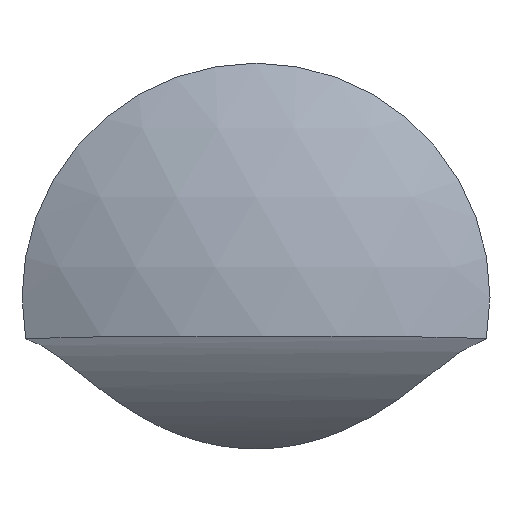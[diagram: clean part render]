
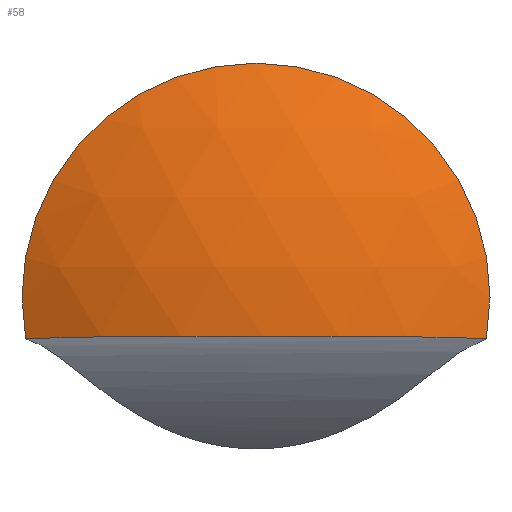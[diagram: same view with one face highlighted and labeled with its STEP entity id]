
A CAD part, front view. The second image highlights one B-rep face of the part: STEP entity #58.
In plain terms, the highlighted spherical face has radius 25.5 mm.
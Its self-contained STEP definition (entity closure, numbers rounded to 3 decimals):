
#58 = ADVANCED_FACE( '', ( #142 ), #143, .T. );
#60 = VERTEX_POINT( '', #145 );
#68 = EDGE_CURVE( '', #100, #60, #153, .T. );
#88 = EDGE_CURVE( '', #92, #60, #176, .T. );
#92 = VERTEX_POINT( '', #180 );
#100 = VERTEX_POINT( '', #188 );
#122 = EDGE_CURVE( '', #100, #92, #215, .T. );
#142 = FACE_OUTER_BOUND( '', #225, .T. );
#143 = SPHERICAL_SURFACE( '', #226, 25.5 );
#145 = CARTESIAN_POINT( '', ( 11.81, -27., -2.125 ) );
#153 = B_SPLINE_CURVE_WITH_KNOTS( '', 3, ( #240, #241, #242, #243, #244, #245, #246, #247, #248, #249, #250, #251, #252, #253, #254, #255, #256, #257, #258 ), .UNSPECIFIED., .F., .F., ( 4, 2, 2, 2, 3, 2, 2, 2, 4 ), ( -11.985, -9.154, -6.103, -3.051, 0., 3.051, 6.103, 9.154, 11.985 ), .UNSPECIFIED. );
#176 = CIRCLE( '', #306, 12. );
#180 = CARTESIAN_POINT( '', ( 0., -27., 12. ) );
#188 = CARTESIAN_POINT( '', ( -11.81, -27., -2.125 ) );
#215 = CIRCLE( '', #378, 12. );
#225 = EDGE_LOOP( '', ( #385, #386, #387 ) );
#226 = AXIS2_PLACEMENT_3D( '', #388, #389, #390 );
#240 = CARTESIAN_POINT( '', ( -11.81, -27., -2.125 ) );
#241 = CARTESIAN_POINT( '', ( -10.949, -27.455, -2.091 ) );
#242 = CARTESIAN_POINT( '', ( -10.059, -27.861, -2.068 ) );
#243 = CARTESIAN_POINT( '', ( -8.169, -28.594, -2.032 ) );
#244 = CARTESIAN_POINT( '', ( -7.164, -28.912, -2.022 ) );
#245 = CARTESIAN_POINT( '', ( -5.132, -29.419, -2.008 ) );
#246 = CARTESIAN_POINT( '', ( -4.104, -29.609, -2.004 ) );
#247 = CARTESIAN_POINT( '', ( -2.046, -29.86, -2.001 ) );
#248 = CARTESIAN_POINT( '', ( -1.017, -29.921, -2. ) );
#249 = CARTESIAN_POINT( '', ( 0., -29.921, -2. ) );
#250 = CARTESIAN_POINT( '', ( 1.017, -29.921, -2. ) );
#251 = CARTESIAN_POINT( '', ( 2.046, -29.86, -2.001 ) );
#252 = CARTESIAN_POINT( '', ( 4.104, -29.609, -2.004 ) );
#253 = CARTESIAN_POINT( '', ( 5.132, -29.419, -2.008 ) );
#254 = CARTESIAN_POINT( '', ( 7.164, -28.912, -2.022 ) );
#255 = CARTESIAN_POINT( '', ( 8.169, -28.594, -2.032 ) );
#256 = CARTESIAN_POINT( '', ( 10.059, -27.861, -2.068 ) );
#257 = CARTESIAN_POINT( '', ( 10.949, -27.455, -2.091 ) );
#258 = CARTESIAN_POINT( '', ( 11.81, -27., -2.125 ) );
#306 = AXIS2_PLACEMENT_3D( '', #421, #422, #423 );
#378 = AXIS2_PLACEMENT_3D( '', #471, #472, #473 );
#385 = ORIENTED_EDGE( '', *, *, #68, .T. );
#386 = ORIENTED_EDGE( '', *, *, #88, .F. );
#387 = ORIENTED_EDGE( '', *, *, #122, .F. );
#388 = CARTESIAN_POINT( '', ( 0., -4.5, 0. ) );
#389 = DIRECTION( '', ( 0., 0., 1. ) );
#390 = DIRECTION( '', ( 1., 0., 0. ) );
#421 = CARTESIAN_POINT( '', ( 0., -27., 0. ) );
#422 = DIRECTION( '', ( 0., 1., 0. ) );
#423 = DIRECTION( '', ( 0., 0., -1. ) );
#471 = CARTESIAN_POINT( '', ( 0., -27., 0. ) );
#472 = DIRECTION( '', ( 0., 1., 0. ) );
#473 = DIRECTION( '', ( 0., 0., -1. ) );
